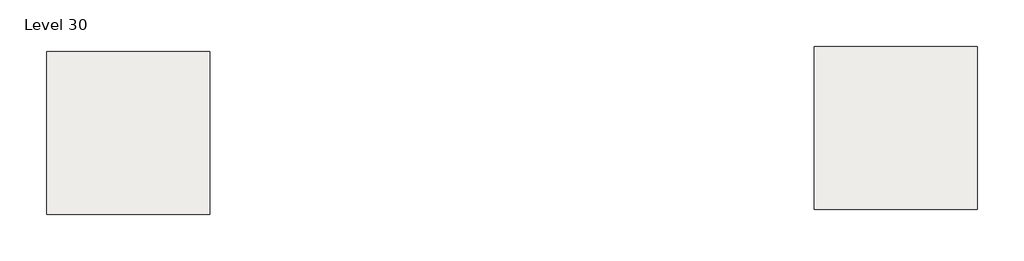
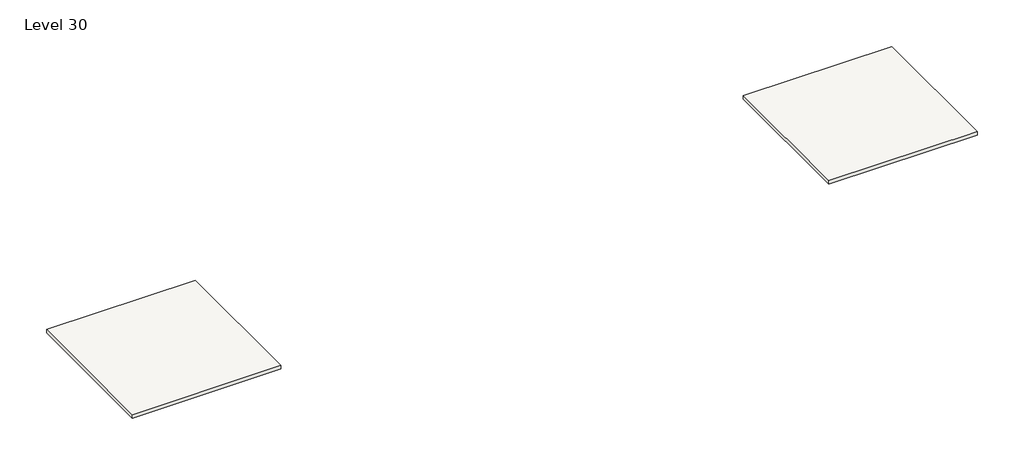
# One storey: 2 slabs.
"""IFC4 building model written with IfcOpenShell, lengths in millimetres."""

from ifc_helpers import new_model, si_unit, frame, origin, place, context, project, spatial, polyline, outline, extrude, element, save

model = new_model("IFC4")

# Units and contexts
model_context = context("Model", 3, world=origin())
ifc_project = project(units=[si_unit("LENGTHUNIT", "METRE", prefix="MILLI")], contexts=[model_context])

# Site, building, storey
site = spatial("IfcSite", under=ifc_project)
building = spatial("IfcBuilding", under=site)
storey = spatial("IfcBuildingStorey", under=building, Name="Level 30", Elevation=88392.0)

# Slabs
placement = place(None, origin())
element("IfcSlab", 1, ObjectType="Generic - 12\"", at=placement, inside=storey, context=model_context, shape_type="SweptSolid", body=[
    extrude(outline(polyline([(-19315.4161695, 7973.9495511), (-7123.4161695, 7973.9495511), (-7123.4161695, -4218.0504489), (-19315.4161695, -4218.0504489), (-19315.4161695, 7973.9495511)])), frame((0.0, 0.0, 88087.2), z_axis=(0.0, 0.0, 1.0), x_axis=(1.0, 0.0, 0.0)), (0.0, 0.0, 1.0), 304.8),
])
element("IfcSlab", 2, ObjectType="Generic - 12\"", at=placement, inside=storey, context=model_context, shape_type="SweptSolid", body=[
    extrude(outline(polyline([(38118.2903978, 8351.0904402), (50310.2903978, 8351.0904402), (50310.2903978, -3840.9095598), (38118.2903978, -3840.9095598), (38118.2903978, 8351.0904402)])), frame((0.0, 0.0, 88087.2), z_axis=(0.0, 0.0, 1.0), x_axis=(1.0, 0.0, 0.0)), (0.0, 0.0, 1.0), 304.8),
])

save(model, "model.ifc")
